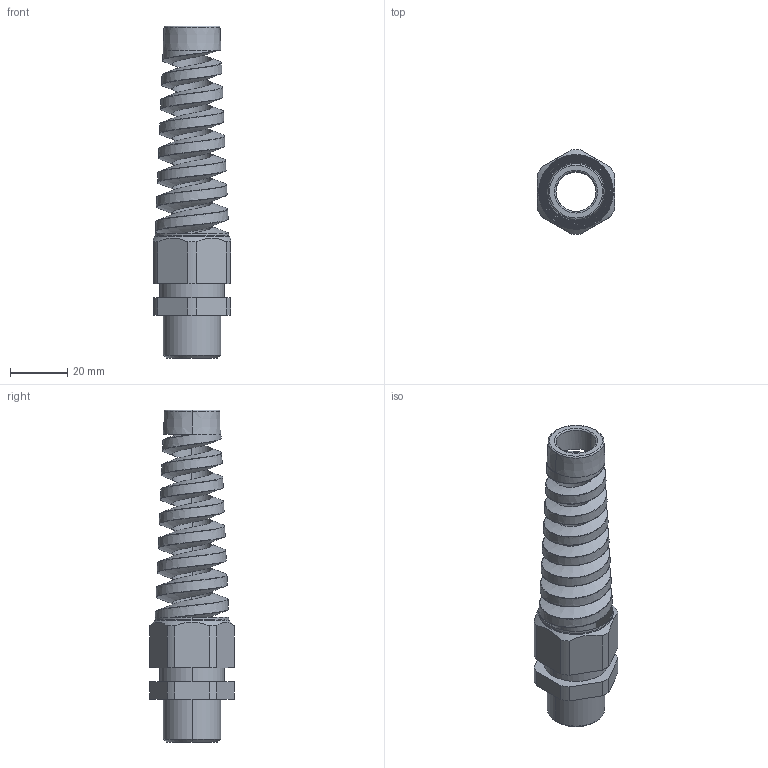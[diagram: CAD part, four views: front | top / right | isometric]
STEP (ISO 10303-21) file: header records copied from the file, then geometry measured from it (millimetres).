
FILE_DESCRIPTION (( 'STEP AP203' ), '1' );
FILE_NAME ('50016M20PABS.STEP', '2005-10-17T12:36:46', ( ' ' ), ( '' ), 'SwSTEP 2.0', 'SolidWorks 2005143', '' );
FILE_SCHEMA (( 'CONFIG_CONTROL_DESIGN' ));
Length unit declared in the file: millimetre
Products named in the file (1): 50016M20PABS
Bounding box: 27 x 29.58 x 116 mm (x, y, z)
Volume: 25743.3 mm3; surface area: 15809.3 mm2
Topology: 1 solids, 1 shells, 114 faces, 324 edges, 216 vertices
Faces by surface type: plane 56, cylinder 32, torus 13, cone 8, bspline 5
Entity records: 40073 total; most frequent: CARTESIAN_POINT 37083, ORIENTED_EDGE 648, DIRECTION 559, EDGE_CURVE 324, VERTEX_POINT 216, AXIS2_PLACEMENT_3D 193, VECTOR 173, LINE 173
